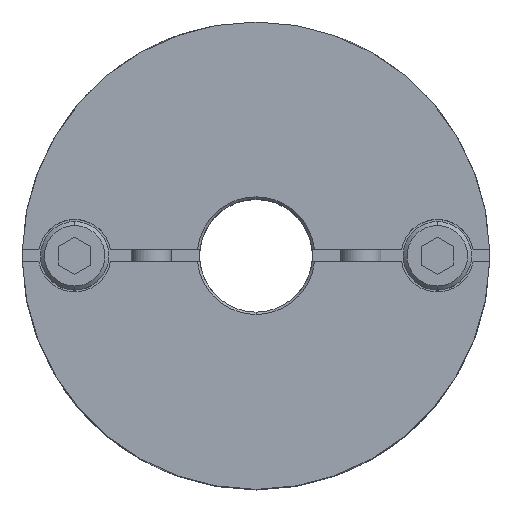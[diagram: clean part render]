
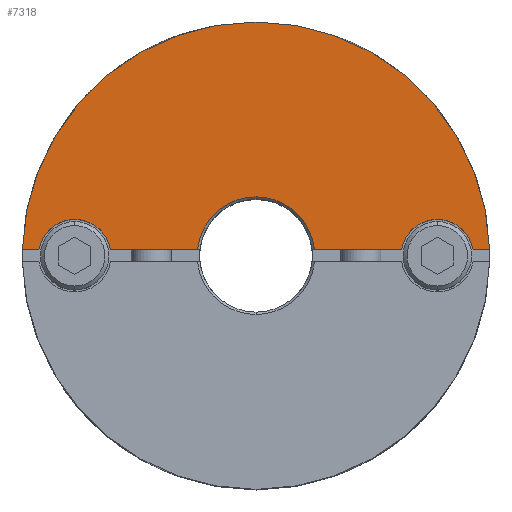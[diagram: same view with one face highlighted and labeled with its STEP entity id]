
A CAD part, top view. The second image highlights one B-rep face of the part: STEP entity #7318.
In plain terms, the highlighted planar face has unit normal (0, 0, 1).
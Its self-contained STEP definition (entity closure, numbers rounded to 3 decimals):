
#605=CARTESIAN_POINT('',(0.,29.,22.4));
#606=VERTEX_POINT('',#605);
#690=CARTESIAN_POINT('',(-28.99,0.75,22.4));
#691=VERTEX_POINT('',#690);
#698=CARTESIAN_POINT('',(0.0,0.,22.4));
#699=DIRECTION('',(0.0,0.0,-1.0));
#700=DIRECTION('',(0.0,1.0,0.0));
#701=AXIS2_PLACEMENT_3D('',#698,#699,#700);
#702=CIRCLE('',#701,29.0);
#703=EDGE_CURVE('',#691,#606,#702,.T.);
#1021=CARTESIAN_POINT('',(0.,7.3,22.4));
#1022=VERTEX_POINT('',#1021);
#1029=CARTESIAN_POINT('',(-7.261,0.75,22.4));
#1030=VERTEX_POINT('',#1029);
#1031=CARTESIAN_POINT('',(0.0,0.,22.4));
#1032=DIRECTION('',(0.0,0.0,1.0));
#1033=DIRECTION('',(0.0,-1.0,0.0));
#1034=AXIS2_PLACEMENT_3D('',#1031,#1032,#1033);
#1035=CIRCLE('',#1034,7.3);
#1036=EDGE_CURVE('',#1022,#1030,#1035,.T.);
#1099=CARTESIAN_POINT('',(-22.5,4.5,22.4));
#1100=VERTEX_POINT('',#1099);
#1109=CARTESIAN_POINT('',(-26.937,0.75,22.4));
#1110=VERTEX_POINT('',#1109);
#1111=CARTESIAN_POINT('',(-22.5,0.,22.4));
#1112=DIRECTION('',(0.0,0.0,-1.0));
#1113=DIRECTION('',(0.0,1.0,0.0));
#1114=AXIS2_PLACEMENT_3D('',#1111,#1112,#1113);
#1115=CIRCLE('',#1114,4.5);
#1116=EDGE_CURVE('',#1110,#1100,#1115,.T.);
#1183=CARTESIAN_POINT('',(22.5,4.5,22.4));
#1184=VERTEX_POINT('',#1183);
#1193=CARTESIAN_POINT('',(18.063,0.75,22.4));
#1194=VERTEX_POINT('',#1193);
#1195=CARTESIAN_POINT('',(22.5,0.,22.4));
#1196=DIRECTION('',(0.0,0.0,-1.0));
#1197=DIRECTION('',(0.0,1.0,0.0));
#1198=AXIS2_PLACEMENT_3D('',#1195,#1196,#1197);
#1199=CIRCLE('',#1198,4.5);
#1200=EDGE_CURVE('',#1194,#1184,#1199,.T.);
#6994=CARTESIAN_POINT('',(26.937,0.75,22.4));
#6995=VERTEX_POINT('',#6994);
#7002=CARTESIAN_POINT('',(22.5,0.,22.4));
#7003=DIRECTION('',(0.0,0.0,-1.0));
#7004=DIRECTION('',(0.0,1.0,0.0));
#7005=AXIS2_PLACEMENT_3D('',#7002,#7003,#7004);
#7006=CIRCLE('',#7005,4.5);
#7007=EDGE_CURVE('',#1184,#6995,#7006,.T.);
#7060=CARTESIAN_POINT('',(-18.063,0.75,22.4));
#7061=VERTEX_POINT('',#7060);
#7068=CARTESIAN_POINT('',(-22.5,0.,22.4));
#7069=DIRECTION('',(0.0,0.0,-1.0));
#7070=DIRECTION('',(0.0,1.0,0.0));
#7071=AXIS2_PLACEMENT_3D('',#7068,#7069,#7070);
#7072=CIRCLE('',#7071,4.5);
#7073=EDGE_CURVE('',#1100,#7061,#7072,.T.);
#7092=CARTESIAN_POINT('',(28.99,0.75,22.4));
#7093=VERTEX_POINT('',#7092);
#7100=CARTESIAN_POINT('',(26.937,0.75,22.4));
#7101=DIRECTION('',(1.0,0.0,0.0));
#7102=VECTOR('',#7101,2.053);
#7103=LINE('',#7100,#7102);
#7104=EDGE_CURVE('',#6995,#7093,#7103,.T.);
#7115=CARTESIAN_POINT('',(7.261,0.75,22.4));
#7116=VERTEX_POINT('',#7115);
#7117=CARTESIAN_POINT('',(7.261,0.75,22.4));
#7118=DIRECTION('',(1.0,0.0,0.0));
#7119=VECTOR('',#7118,10.802);
#7120=LINE('',#7117,#7119);
#7121=EDGE_CURVE('',#7116,#1194,#7120,.T.);
#7277=CARTESIAN_POINT('',(0.,2.636,22.4));
#7278=DIRECTION('',(0.0,0.0,1.0));
#7279=DIRECTION('',(0.0,1.0,0.0));
#7280=AXIS2_PLACEMENT_3D('',#7277,#7278,#7279);
#7281=PLANE('',#7280);
#7282=ORIENTED_EDGE('',*,*,#1200,.T.);
#7283=ORIENTED_EDGE('',*,*,#7007,.T.);
#7284=ORIENTED_EDGE('',*,*,#7104,.T.);
#7285=CARTESIAN_POINT('',(0.0,0.,22.4));
#7286=DIRECTION('',(0.0,0.0,-1.0));
#7287=DIRECTION('',(0.0,1.0,0.0));
#7288=AXIS2_PLACEMENT_3D('',#7285,#7286,#7287);
#7289=CIRCLE('',#7288,29.0);
#7290=EDGE_CURVE('',#606,#7093,#7289,.T.);
#7291=ORIENTED_EDGE('',*,*,#7290,.F.);
#7292=ORIENTED_EDGE('',*,*,#703,.F.);
#7293=CARTESIAN_POINT('',(-28.99,0.75,22.4));
#7294=DIRECTION('',(1.0,0.0,0.0));
#7295=VECTOR('',#7294,2.053);
#7296=LINE('',#7293,#7295);
#7297=EDGE_CURVE('',#691,#1110,#7296,.T.);
#7298=ORIENTED_EDGE('',*,*,#7297,.T.);
#7299=ORIENTED_EDGE('',*,*,#1116,.T.);
#7300=ORIENTED_EDGE('',*,*,#7073,.T.);
#7301=CARTESIAN_POINT('',(-18.063,0.75,22.4));
#7302=DIRECTION('',(1.0,0.0,0.0));
#7303=VECTOR('',#7302,10.802);
#7304=LINE('',#7301,#7303);
#7305=EDGE_CURVE('',#7061,#1030,#7304,.T.);
#7306=ORIENTED_EDGE('',*,*,#7305,.T.);
#7307=ORIENTED_EDGE('',*,*,#1036,.F.);
#7308=CARTESIAN_POINT('',(0.0,0.,22.4));
#7309=DIRECTION('',(0.0,0.0,1.0));
#7310=DIRECTION('',(0.0,-1.0,0.0));
#7311=AXIS2_PLACEMENT_3D('',#7308,#7309,#7310);
#7312=CIRCLE('',#7311,7.3);
#7313=EDGE_CURVE('',#7116,#1022,#7312,.T.);
#7314=ORIENTED_EDGE('',*,*,#7313,.F.);
#7315=ORIENTED_EDGE('',*,*,#7121,.T.);
#7316=EDGE_LOOP('',(#7282,#7283,#7284,#7291,#7292,#7298,#7299,#7300,#7306,#7307,#7314,#7315));
#7317=FACE_OUTER_BOUND('',#7316,.T.);
#7318=ADVANCED_FACE('',(#7317),#7281,.T.);
